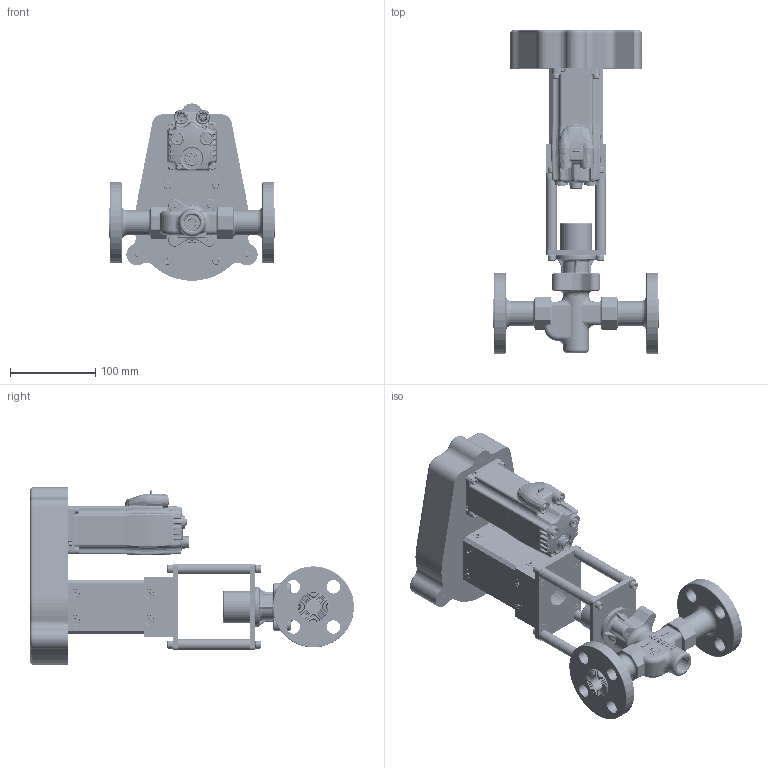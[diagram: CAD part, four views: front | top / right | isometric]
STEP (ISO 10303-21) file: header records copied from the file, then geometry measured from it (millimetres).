
FILE_DESCRIPTION (( 'STEP AP203' ), '1' );
FILE_NAME ('.50 2W FLANGE SYN-CONTROL-STEP.STEP', '2018-11-08T19:31:47', ( '' ), ( '' ), 'SwSTEP 2.0', 'SolidWorks 2012', '' );
FILE_SCHEMA (( 'CONFIG_CONTROL_DESIGN' ));
Products named in the file (20): .50 2W FLANGE SYN-CONTROL-STEP; SYN-H013_90517A312; SYN-H012_90517A311; SYN-H011_92185A242; SYN-H010_92891A700; SYN-032; SYN-H009_92185A544; SYN-001BLK; SYN-H005_90585A242; SYN-002BLK; SYN-H003_90585A026; SYN-H002_92185A540; SYN-004BLK; SYN-003R; SYN-005BLK; SYN-014R; SYN-013BLK; SYN-H001_92185A537; SYN-022; SYN-32RF
Assembly tree (56 placements, depth 2):
  .50 2W FLANGE SYN-CONTROL-STEP
    SYN-32RF
    SYN-022
    SYN-H001_92185A537  x4
    SYN-013BLK
    SYN-014R  x4
    SYN-005BLK
    SYN-003R
    SYN-004BLK
    SYN-H002_92185A540  x8
    SYN-H003_90585A026  x7
    SYN-002BLK
    SYN-H005_90585A242  x11
    SYN-001BLK
    SYN-H009_92185A544  x3
    SYN-032
    SYN-H010_92891A700  x4
    SYN-H011_92185A242  x4
    SYN-H012_90517A311
    SYN-H013_90517A312
Bounding box: 195.33 x 379.98 x 207.85 mm (x, y, z)
Volume: 1144179.4 mm3; surface area: 442476.5 mm2
Topology: 55 solids, 80 shells, 5465 faces, 14943 edges, 9627 vertices
Faces by surface type: cylinder 2545, plane 953, cone 880, bspline 747, torus 283, sphere 57
Entity records: 157168 total; most frequent: CARTESIAN_POINT 79478, ORIENTED_EDGE 16363, DIRECTION 13847, EDGE_CURVE 8910, VERTEX_POINT 5887, AXIS2_PLACEMENT_3D 5393, EDGE_LOOP 3558, FACE_OUTER_BOUND 3177
